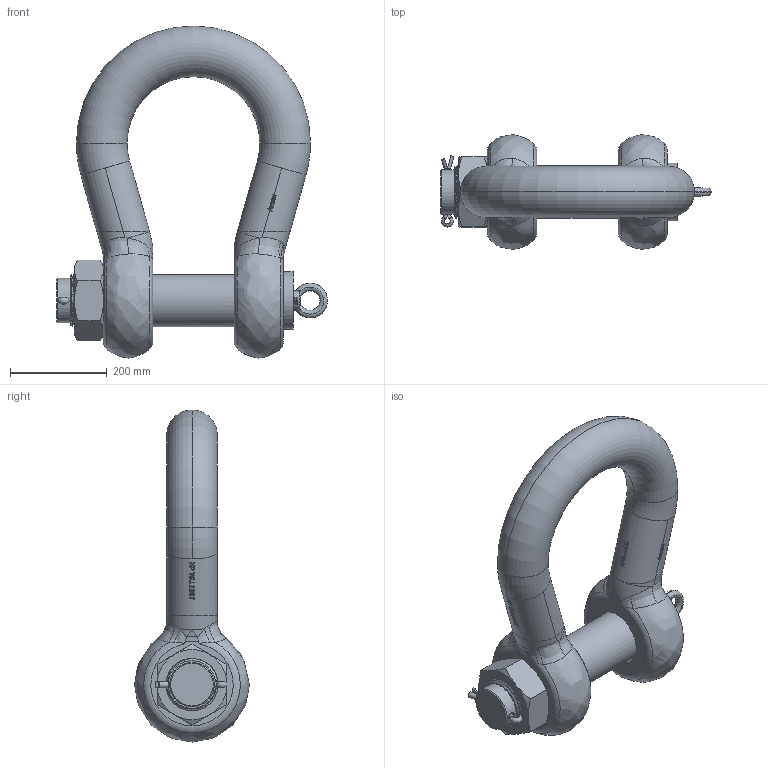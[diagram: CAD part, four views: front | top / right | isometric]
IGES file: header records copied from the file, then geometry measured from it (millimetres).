
Global section: file name: No Iges File Name specified; native system: Autodesk Inventor 2009; preprocessor: AutoDesk Inventor Iges Exporter R2009; author: Jack; date: 20091209.212713; units: millimetre
Bounding box: 561 x 238 x 688 mm (x, y, z)
Volume: 19901430.7 mm3; surface area: 944616.2 mm2
Topology: 5 solids, 5 shells, 831 faces, 2236 edges, 1468 vertices
Faces by surface type: plane 420, bspline 229, cylinder 106, revolution 36, torus 20, cone 20
Full cylindrical faces by diameter (mm): 108 x11
